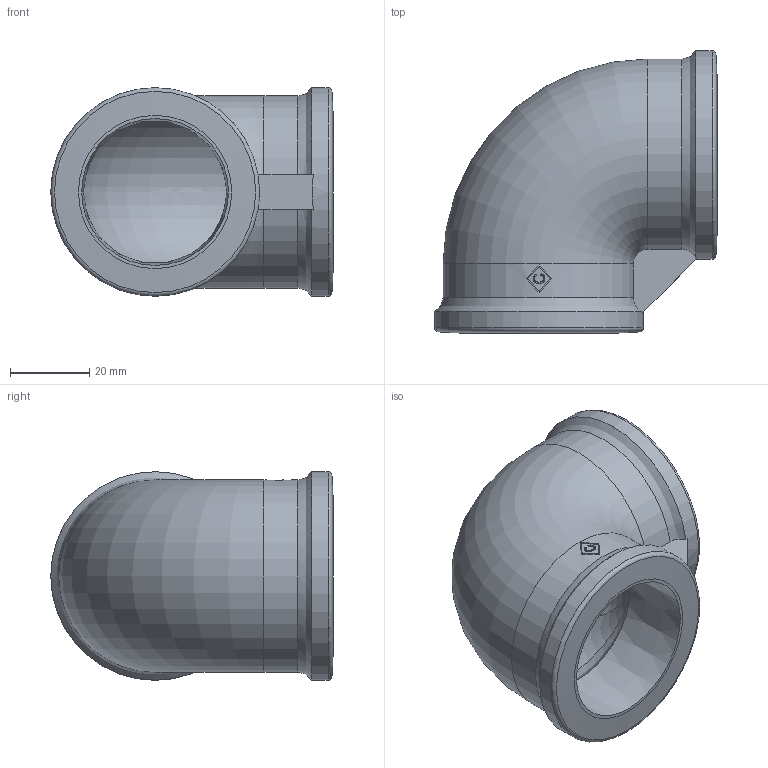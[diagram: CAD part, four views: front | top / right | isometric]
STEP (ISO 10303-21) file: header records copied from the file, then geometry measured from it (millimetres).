
FILE_DESCRIPTION((''),'2;1');
FILE_NAME('P:\Fastrack\53909_CRANE\Crane\Fig.151 Elbow\New 1.25 inch\151-1.25.stp','2009-09-15T11:07:14',('btaylor'),(''),'Autodesk Inventor 2008','Autodesk Inventor 2008','');
FILE_SCHEMA(('AUTOMOTIVE_DESIGN { 1 0 10303 214 1 1 1 1 }'));
Length unit declared in the file: millimetre
Products named in the file (1): 151-1.25
Bounding box: 71.35 x 71.35 x 52.7 mm (x, y, z)
Volume: 54485.8 mm3; surface area: 24406.8 mm2
Topology: 1 solids, 1 shells, 42 faces, 125 edges, 88 vertices
Faces by surface type: plane 15, bspline 12, cylinder 7, torus 4, cone 4
Full cylindrical faces by diameter (mm): 52.7 x2
Entity records: 2966 total; most frequent: CARTESIAN_POINT 1884, ORIENTED_EDGE 228, DIRECTION 194, EDGE_CURVE 114, VERTEX_POINT 86, AXIS2_PLACEMENT_3D 83, EDGE_LOOP 56, FACE_OUTER_BOUND 42
